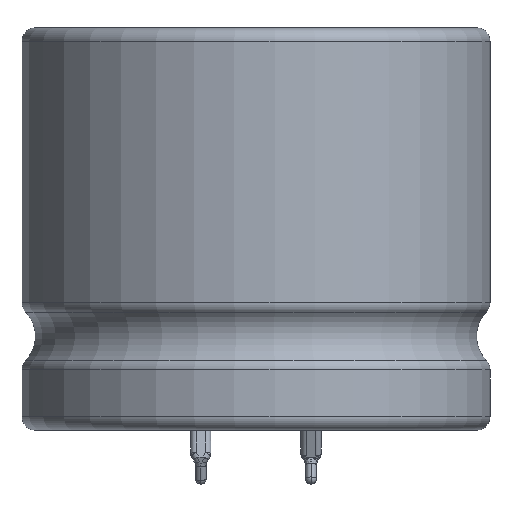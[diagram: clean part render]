
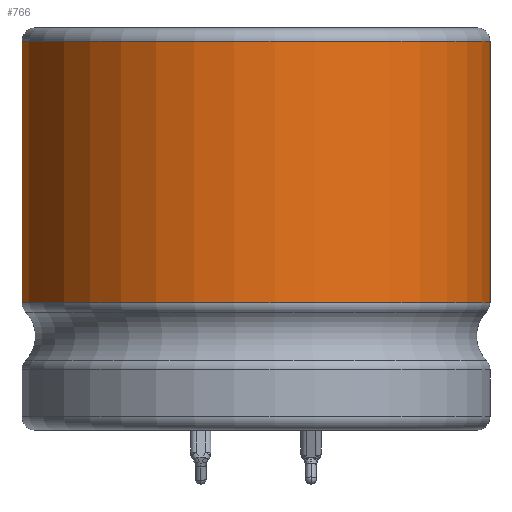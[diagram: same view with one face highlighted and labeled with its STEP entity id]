
A CAD part, left-side view. The second image highlights one B-rep face of the part: STEP entity #766.
In plain terms, the highlighted cylindrical face has radius 17.5 mm (diameter 35 mm), a partial arc.
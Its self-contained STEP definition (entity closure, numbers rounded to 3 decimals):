
#766=ADVANCED_FACE('',(#1050),#974,.T.);
#974=CYLINDRICAL_SURFACE('',#3966,17.5);
#1050=FACE_OUTER_BOUND('',#1245,.T.);
#1245=EDGE_LOOP('',(#1975,#1976,#1977,#1978));
#1467=LINE('',#5532,#1721);
#1468=LINE('',#5536,#1722);
#1721=VECTOR('',#4404,1.);
#1722=VECTOR('',#4407,1.);
#1975=ORIENTED_EDGE('',*,*,#3273,.F.);
#1976=ORIENTED_EDGE('',*,*,#3274,.F.);
#1977=ORIENTED_EDGE('',*,*,#3275,.T.);
#1978=ORIENTED_EDGE('',*,*,#3276,.T.);
#2963=VERTEX_POINT('',#5530);
#2964=VERTEX_POINT('',#5531);
#2965=VERTEX_POINT('',#5533);
#2966=VERTEX_POINT('',#5535);
#3273=EDGE_CURVE('',#2963,#2964,#3767,.T.);
#3274=EDGE_CURVE('',#2965,#2963,#1467,.T.);
#3275=EDGE_CURVE('',#2965,#2966,#3768,.T.);
#3276=EDGE_CURVE('',#2966,#2964,#1468,.T.);
#3767=CIRCLE('',#3964,17.5);
#3768=CIRCLE('',#3965,17.5);
#3964=AXIS2_PLACEMENT_3D('',#5529,#4402,#4403);
#3965=AXIS2_PLACEMENT_3D('',#5534,#4405,#4406);
#3966=AXIS2_PLACEMENT_3D('',#5537,#4408,#4409);
#4402=DIRECTION('',(0.,0.,-1.));
#4403=DIRECTION('',(-1.,0.,0.));
#4404=DIRECTION('',(0.,0.,-1.));
#4405=DIRECTION('',(0.,0.,-1.));
#4406=DIRECTION('',(-1.,0.,0.));
#4407=DIRECTION('',(0.,0.,-1.));
#4408=DIRECTION('',(0.,0.,-1.));
#4409=DIRECTION('',(-1.,0.,0.));
#5529=CARTESIAN_POINT('',(0.,0.,9.5));
#5530=CARTESIAN_POINT('',(7.118,-15.987,9.5));
#5531=CARTESIAN_POINT('',(15.987,-7.118,9.5));
#5532=CARTESIAN_POINT('',(7.118,-15.987,29.));
#5533=CARTESIAN_POINT('',(7.118,-15.987,29.));
#5534=CARTESIAN_POINT('',(0.,0.,29.));
#5535=CARTESIAN_POINT('',(15.987,-7.118,29.));
#5536=CARTESIAN_POINT('',(15.987,-7.118,29.));
#5537=CARTESIAN_POINT('',(0.,0.,0.));
